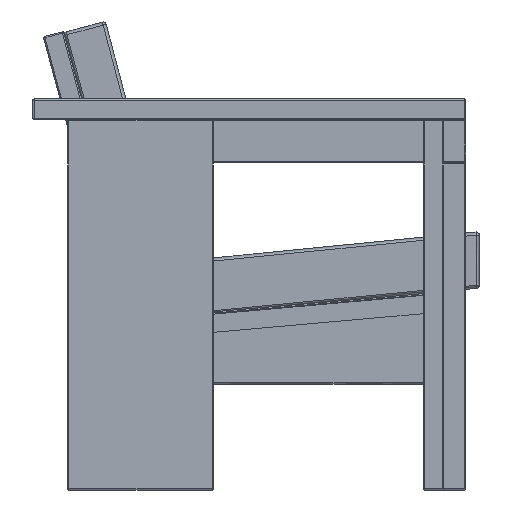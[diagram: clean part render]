
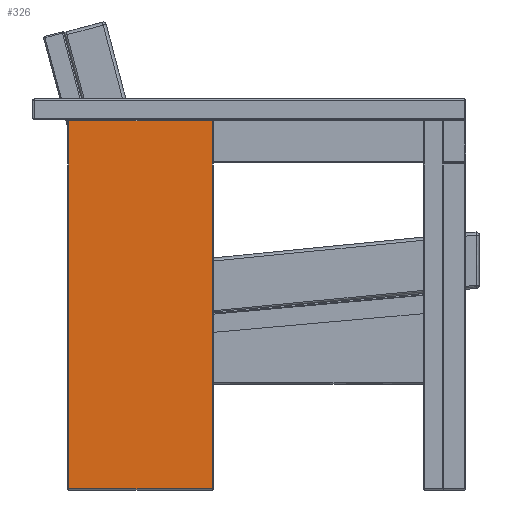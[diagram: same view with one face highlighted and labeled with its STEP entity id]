
A CAD part, left-side view. The second image highlights one B-rep face of the part: STEP entity #326.
In plain terms, the highlighted planar face has unit normal (-1, 0, 0).
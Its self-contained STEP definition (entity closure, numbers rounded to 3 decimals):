
#326=ADVANCED_FACE('',(#836),#6219,.T.);
#836=FACE_OUTER_BOUND('',#1346,.T.);
#1346=EDGE_LOOP('',(#2684,#2685,#2686,#2687));
#2684=ORIENTED_EDGE('',*,*,#4128,.T.);
#2685=ORIENTED_EDGE('',*,*,#4123,.T.);
#2686=ORIENTED_EDGE('',*,*,#4142,.F.);
#2687=ORIENTED_EDGE('',*,*,#4115,.T.);
#4115=EDGE_CURVE('',#5908,#5906,#4944,.T.);
#4123=EDGE_CURVE('',#5911,#5915,#4949,.T.);
#4128=EDGE_CURVE('',#5906,#5911,#4954,.T.);
#4142=EDGE_CURVE('',#5908,#5915,#4968,.T.);
#4944=B_SPLINE_CURVE_WITH_KNOTS('',1,(#12622,#12623),.UNSPECIFIED.,.F.,
 .F.,(2,2),(0.,586.),.UNSPECIFIED.);
#4949=B_SPLINE_CURVE_WITH_KNOTS('',1,(#12653,#12654),.UNSPECIFIED.,.F.,
 .F.,(2,2),(0.,586.),.UNSPECIFIED.);
#4954=B_SPLINE_CURVE_WITH_KNOTS('',1,(#12675,#12676),.UNSPECIFIED.,.F.,
 .F.,(2,2),(0.,228.),.UNSPECIFIED.);
#4968=B_SPLINE_CURVE_WITH_KNOTS('',1,(#12727,#12728),.UNSPECIFIED.,.F.,
 .F.,(2,2),(0.,228.),.UNSPECIFIED.);
#5906=VERTEX_POINT('',#12575);
#5908=VERTEX_POINT('',#12577);
#5911=VERTEX_POINT('',#12580);
#5915=VERTEX_POINT('',#12584);
#6219=PLANE('',#6937);
#6937=AXIS2_PLACEMENT_3D('',#12562,#7253,$);
#7253=DIRECTION('',(-1.,0.,0.));
#12562=CARTESIAN_POINT('',(-859.631,69.993,588.216));
#12575=CARTESIAN_POINT('',(-859.631,69.993,588.216));
#12577=CARTESIAN_POINT('',(-859.631,69.993,2.216));
#12580=CARTESIAN_POINT('',(-859.631,297.993,588.216));
#12584=CARTESIAN_POINT('',(-859.631,297.993,2.216));
#12622=CARTESIAN_POINT('',(-859.631,69.993,2.216));
#12623=CARTESIAN_POINT('',(-859.631,69.993,588.216));
#12653=CARTESIAN_POINT('',(-859.631,297.993,588.216));
#12654=CARTESIAN_POINT('',(-859.631,297.993,2.216));
#12675=CARTESIAN_POINT('',(-859.631,69.993,588.216));
#12676=CARTESIAN_POINT('',(-859.631,297.993,588.216));
#12727=CARTESIAN_POINT('',(-859.631,69.993,2.216));
#12728=CARTESIAN_POINT('',(-859.631,297.993,2.216));
